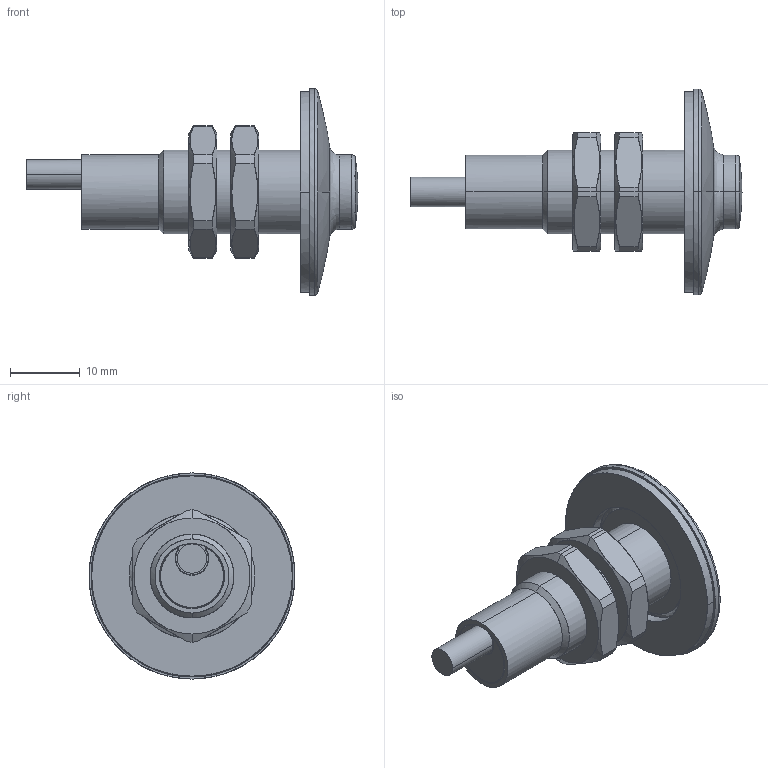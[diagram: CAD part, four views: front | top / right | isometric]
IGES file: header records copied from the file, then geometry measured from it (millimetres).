
Start section: Comment
Global section: file name: CFAK 12P1140_L.igs; native system:  By UGS Corp.; preprocessor: XPlus GENERIC/IGES 3.0; author: Author; organization: Title; date: 20100428.102836; units: millimetre
Bounding box: 47.5 x 29.47 x 29.5 mm (x, y, z)
Surface area: 4959.3 mm2 (no closed solid volume)
Topology: 0 solids, 0 shells, 109 faces, 514 edges, 510 vertices
Faces by surface type: bspline 109
